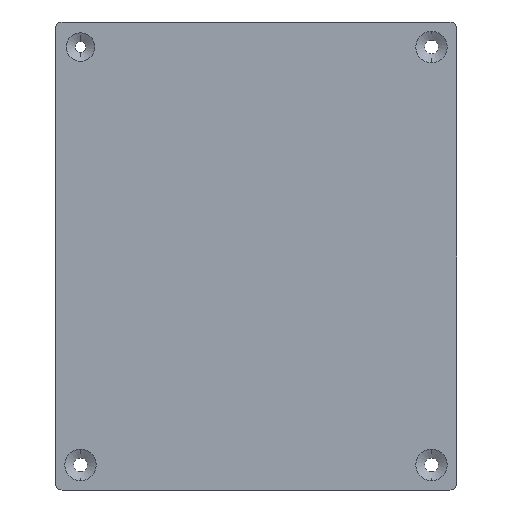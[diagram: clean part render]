
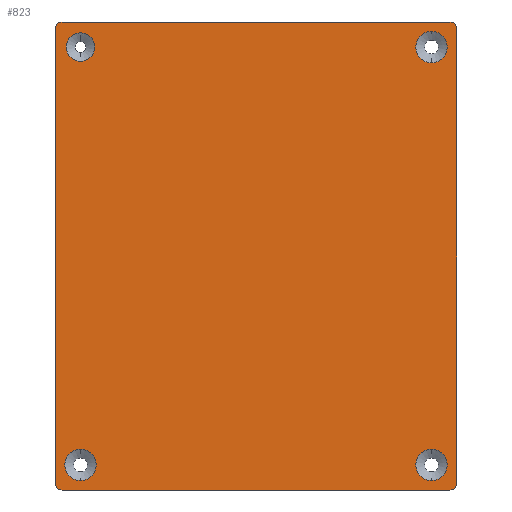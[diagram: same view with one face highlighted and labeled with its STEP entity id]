
A CAD part, front view. The second image highlights one B-rep face of the part: STEP entity #823.
In plain terms, the highlighted planar face has unit normal (0, -1, 0).
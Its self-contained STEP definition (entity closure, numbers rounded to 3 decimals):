
#1 = DIRECTION ( 'NONE',  ( 0., 0., 1. ) ) ;
#7 = ORIENTED_EDGE ( 'NONE', *, *, #390, .T. ) ;
#10 = EDGE_LOOP ( 'NONE', ( #7, #797 ) ) ;
#18 = VERTEX_POINT ( 'NONE', #440 ) ;
#36 = VECTOR ( 'NONE', #626, 1000. ) ;
#37 = FACE_BOUND ( 'NONE', #400, .T. ) ;
#39 = ORIENTED_EDGE ( 'NONE', *, *, #196, .T. ) ;
#43 = ORIENTED_EDGE ( 'NONE', *, *, #526, .F. ) ;
#48 = DIRECTION ( 'NONE',  ( 0., 0., 1. ) ) ;
#57 = DIRECTION ( 'NONE',  ( 0., 0., 1. ) ) ;
#58 = ORIENTED_EDGE ( 'NONE', *, *, #744, .T. ) ;
#66 = EDGE_CURVE ( 'NONE', #589, #401, #75, .T. ) ;
#70 = CIRCLE ( 'NONE', #235, 2. ) ;
#75 = CIRCLE ( 'NONE', #92, 4.698 ) ;
#84 = CIRCLE ( 'NONE', #308, 4.248 ) ;
#88 = VERTEX_POINT ( 'NONE', #155 ) ;
#92 = AXIS2_PLACEMENT_3D ( 'NONE', #745, #366, #764 ) ;
#101 = CARTESIAN_POINT ( 'NONE',  ( -52.5, 0., -3.252 ) ) ;
#105 = CARTESIAN_POINT ( 'NONE',  ( 58., 0., 0. ) ) ;
#107 = DIRECTION ( 'NONE',  ( 0., 1., 0. ) ) ;
#108 = EDGE_CURVE ( 'NONE', #304, #524, #365, .T. ) ;
#111 = EDGE_CURVE ( 'NONE', #88, #18, #215, .T. ) ;
#115 = CARTESIAN_POINT ( 'NONE',  ( 52.5, 0., -132.5 ) ) ;
#126 = CARTESIAN_POINT ( 'NONE',  ( 52.5, 0., -132.5 ) ) ;
#133 = VECTOR ( 'NONE', #715, 1000. ) ;
#135 = VERTEX_POINT ( 'NONE', #705 ) ;
#153 = LINE ( 'NONE', #468, #133 ) ;
#155 = CARTESIAN_POINT ( 'NONE',  ( 52.5, 0., -127.802 ) ) ;
#159 = DIRECTION ( 'NONE',  ( 0., 0., 1. ) ) ;
#166 = DIRECTION ( 'NONE',  ( 0., -1., 0. ) ) ;
#169 = DIRECTION ( 'NONE',  ( 0., -1., 0. ) ) ;
#180 = LINE ( 'NONE', #275, #845 ) ;
#185 = CARTESIAN_POINT ( 'NONE',  ( 60., 0., -2. ) ) ;
#195 = EDGE_LOOP ( 'NONE', ( #39, #361, #43, #590, #381, #278, #630, #699 ) ) ;
#196 = EDGE_CURVE ( 'NONE', #197, #728, #180, .T. ) ;
#197 = VERTEX_POINT ( 'NONE', #425 ) ;
#205 = AXIS2_PLACEMENT_3D ( 'NONE', #126, #556, #57 ) ;
#211 = FACE_BOUND ( 'NONE', #429, .T. ) ;
#215 = CIRCLE ( 'NONE', #374, 4.698 ) ;
#216 = AXIS2_PLACEMENT_3D ( 'NONE', #515, #169, #417 ) ;
#222 = AXIS2_PLACEMENT_3D ( 'NONE', #232, #695, #562 ) ;
#231 = CIRCLE ( 'NONE', #205, 4.698 ) ;
#232 = CARTESIAN_POINT ( 'NONE',  ( -52.5, 0., -7.5 ) ) ;
#235 = AXIS2_PLACEMENT_3D ( 'NONE', #312, #166, #159 ) ;
#240 = DIRECTION ( 'NONE',  ( 0., 0., 1. ) ) ;
#242 = DIRECTION ( 'NONE',  ( 0., 0., 1. ) ) ;
#266 = CARTESIAN_POINT ( 'NONE',  ( 0., 0., -140. ) ) ;
#267 = CARTESIAN_POINT ( 'NONE',  ( -58., 0., 0. ) ) ;
#275 = CARTESIAN_POINT ( 'NONE',  ( 60., 0., 0. ) ) ;
#278 = ORIENTED_EDGE ( 'NONE', *, *, #661, .T. ) ;
#283 = VECTOR ( 'NONE', #554, 1000. ) ;
#286 = VERTEX_POINT ( 'NONE', #288 ) ;
#288 = CARTESIAN_POINT ( 'NONE',  ( -60., 0., -2. ) ) ;
#301 = VERTEX_POINT ( 'NONE', #829 ) ;
#304 = VERTEX_POINT ( 'NONE', #101 ) ;
#307 = CIRCLE ( 'NONE', #636, 2. ) ;
#308 = AXIS2_PLACEMENT_3D ( 'NONE', #391, #457, #242 ) ;
#312 = CARTESIAN_POINT ( 'NONE',  ( 58., 0., -2. ) ) ;
#332 = EDGE_LOOP ( 'NONE', ( #514, #58 ) ) ;
#339 = CARTESIAN_POINT ( 'NONE',  ( -52.5, 0., -132.5 ) ) ;
#348 = DIRECTION ( 'NONE',  ( 0., 1., 0. ) ) ;
#350 = DIRECTION ( 'NONE',  ( 0., 0., 1. ) ) ;
#352 = CARTESIAN_POINT ( 'NONE',  ( -60., 0., -138. ) ) ;
#353 = ORIENTED_EDGE ( 'NONE', *, *, #469, .T. ) ;
#356 = DIRECTION ( 'NONE',  ( 0., 0., 1. ) ) ;
#361 = ORIENTED_EDGE ( 'NONE', *, *, #587, .T. ) ;
#365 = CIRCLE ( 'NONE', #222, 4.248 ) ;
#366 = DIRECTION ( 'NONE',  ( 0., 1., 0. ) ) ;
#374 = AXIS2_PLACEMENT_3D ( 'NONE', #115, #475, #1 ) ;
#381 = ORIENTED_EDGE ( 'NONE', *, *, #432, .F. ) ;
#383 = FACE_BOUND ( 'NONE', #10, .T. ) ;
#389 = DIRECTION ( 'NONE',  ( 0., 0., 1. ) ) ;
#390 = EDGE_CURVE ( 'NONE', #18, #88, #231, .T. ) ;
#391 = CARTESIAN_POINT ( 'NONE',  ( -52.5, 0., -7.5 ) ) ;
#398 = EDGE_CURVE ( 'NONE', #696, #135, #479, .T. ) ;
#400 = EDGE_LOOP ( 'NONE', ( #529, #544 ) ) ;
#401 = VERTEX_POINT ( 'NONE', #673 ) ;
#406 = CARTESIAN_POINT ( 'NONE',  ( -52.5, 0., -137.198 ) ) ;
#417 = DIRECTION ( 'NONE',  ( 0., 0., 1. ) ) ;
#425 = CARTESIAN_POINT ( 'NONE',  ( 60., 0., -138. ) ) ;
#429 = EDGE_LOOP ( 'NONE', ( #353, #550 ) ) ;
#431 = CARTESIAN_POINT ( 'NONE',  ( 52.5, 0., -2.802 ) ) ;
#432 = EDGE_CURVE ( 'NONE', #666, #286, #798, .T. ) ;
#440 = CARTESIAN_POINT ( 'NONE',  ( 52.5, 0., -137.198 ) ) ;
#447 = DIRECTION ( 'NONE',  ( 0., 1., 0. ) ) ;
#457 = DIRECTION ( 'NONE',  ( 0., 1., 0. ) ) ;
#467 = CIRCLE ( 'NONE', #765, 4.698 ) ;
#468 = CARTESIAN_POINT ( 'NONE',  ( 0., 0., 0. ) ) ;
#469 = EDGE_CURVE ( 'NONE', #524, #304, #84, .T. ) ;
#475 = DIRECTION ( 'NONE',  ( 0., 1., 0. ) ) ;
#479 = LINE ( 'NONE', #266, #36 ) ;
#502 = EDGE_CURVE ( 'NONE', #301, #763, #834, .T. ) ;
#512 = CARTESIAN_POINT ( 'NONE',  ( 52.5, 0., -7.5 ) ) ;
#514 = ORIENTED_EDGE ( 'NONE', *, *, #502, .T. ) ;
#515 = CARTESIAN_POINT ( 'NONE',  ( -58., 0., -2. ) ) ;
#521 = CIRCLE ( 'NONE', #543, 2. ) ;
#524 = VERTEX_POINT ( 'NONE', #776 ) ;
#526 = EDGE_CURVE ( 'NONE', #598, #796, #153, .T. ) ;
#529 = ORIENTED_EDGE ( 'NONE', *, *, #66, .T. ) ;
#540 = EDGE_CURVE ( 'NONE', #401, #589, #643, .T. ) ;
#543 = AXIS2_PLACEMENT_3D ( 'NONE', #753, #818, #356 ) ;
#544 = ORIENTED_EDGE ( 'NONE', *, *, #540, .T. ) ;
#550 = ORIENTED_EDGE ( 'NONE', *, *, #108, .T. ) ;
#554 = DIRECTION ( 'NONE',  ( 0., 0., 1. ) ) ;
#556 = DIRECTION ( 'NONE',  ( 0., 1., 0. ) ) ;
#562 = DIRECTION ( 'NONE',  ( 0., 0., 1. ) ) ;
#563 = DIRECTION ( 'NONE',  ( 0., 0., 1. ) ) ;
#566 = CIRCLE ( 'NONE', #216, 2. ) ;
#580 = AXIS2_PLACEMENT_3D ( 'NONE', #825, #447, #563 ) ;
#587 = EDGE_CURVE ( 'NONE', #728, #796, #70, .T. ) ;
#589 = VERTEX_POINT ( 'NONE', #406 ) ;
#590 = ORIENTED_EDGE ( 'NONE', *, *, #814, .T. ) ;
#591 = FACE_BOUND ( 'NONE', #332, .T. ) ;
#598 = VERTEX_POINT ( 'NONE', #267 ) ;
#606 = CARTESIAN_POINT ( 'NONE',  ( 58., 0., -138. ) ) ;
#626 = DIRECTION ( 'NONE',  ( 1., 0., 0. ) ) ;
#630 = ORIENTED_EDGE ( 'NONE', *, *, #398, .T. ) ;
#636 = AXIS2_PLACEMENT_3D ( 'NONE', #606, #751, #240 ) ;
#643 = CIRCLE ( 'NONE', #736, 4.698 ) ;
#661 = EDGE_CURVE ( 'NONE', #666, #696, #521, .T. ) ;
#666 = VERTEX_POINT ( 'NONE', #352 ) ;
#673 = CARTESIAN_POINT ( 'NONE',  ( -52.5, 0., -127.802 ) ) ;
#694 = AXIS2_PLACEMENT_3D ( 'NONE', #774, #841, #48 ) ;
#695 = DIRECTION ( 'NONE',  ( 0., 1., 0. ) ) ;
#696 = VERTEX_POINT ( 'NONE', #822 ) ;
#698 = EDGE_CURVE ( 'NONE', #135, #197, #307, .T. ) ;
#699 = ORIENTED_EDGE ( 'NONE', *, *, #698, .T. ) ;
#705 = CARTESIAN_POINT ( 'NONE',  ( 58., 0., -140. ) ) ;
#715 = DIRECTION ( 'NONE',  ( 1., 0., 0. ) ) ;
#716 = CARTESIAN_POINT ( 'NONE',  ( -60., 0., 0. ) ) ;
#717 = FACE_OUTER_BOUND ( 'NONE', #195, .T. ) ;
#728 = VERTEX_POINT ( 'NONE', #185 ) ;
#736 = AXIS2_PLACEMENT_3D ( 'NONE', #339, #348, #846 ) ;
#744 = EDGE_CURVE ( 'NONE', #763, #301, #467, .T. ) ;
#745 = CARTESIAN_POINT ( 'NONE',  ( -52.5, 0., -132.5 ) ) ;
#751 = DIRECTION ( 'NONE',  ( 0., -1., 0. ) ) ;
#753 = CARTESIAN_POINT ( 'NONE',  ( -58., 0., -138. ) ) ;
#763 = VERTEX_POINT ( 'NONE', #431 ) ;
#764 = DIRECTION ( 'NONE',  ( 0., 0., 1. ) ) ;
#765 = AXIS2_PLACEMENT_3D ( 'NONE', #512, #107, #389 ) ;
#774 = CARTESIAN_POINT ( 'NONE',  ( 52.5, 0., -7.5 ) ) ;
#776 = CARTESIAN_POINT ( 'NONE',  ( -52.5, 0., -11.748 ) ) ;
#780 = PLANE ( 'NONE',  #580 ) ;
#796 = VERTEX_POINT ( 'NONE', #105 ) ;
#797 = ORIENTED_EDGE ( 'NONE', *, *, #111, .T. ) ;
#798 = LINE ( 'NONE', #716, #283 ) ;
#814 = EDGE_CURVE ( 'NONE', #598, #286, #566, .T. ) ;
#818 = DIRECTION ( 'NONE',  ( 0., -1., 0. ) ) ;
#822 = CARTESIAN_POINT ( 'NONE',  ( -58., 0., -140. ) ) ;
#823 = ADVANCED_FACE ( 'NONE', ( #591, #383, #37, #211, #717 ), #780, .F. ) ;
#825 = CARTESIAN_POINT ( 'NONE',  ( 0., 0., 0. ) ) ;
#829 = CARTESIAN_POINT ( 'NONE',  ( 52.5, 0., -12.198 ) ) ;
#834 = CIRCLE ( 'NONE', #694, 4.698 ) ;
#841 = DIRECTION ( 'NONE',  ( 0., 1., 0. ) ) ;
#845 = VECTOR ( 'NONE', #350, 1000. ) ;
#846 = DIRECTION ( 'NONE',  ( 0., 0., 1. ) ) ;
